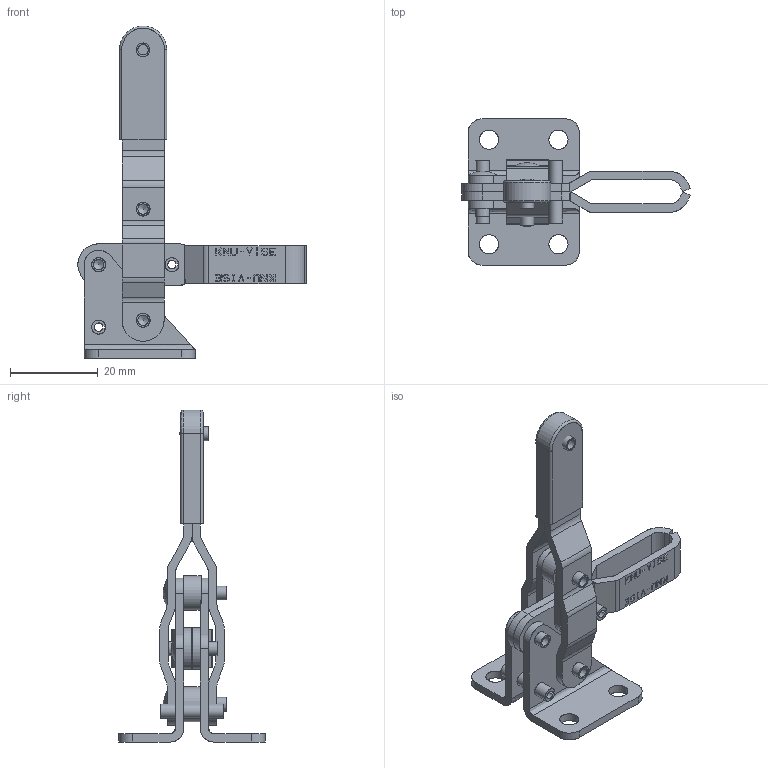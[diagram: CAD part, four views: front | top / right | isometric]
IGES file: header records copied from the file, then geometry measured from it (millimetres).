
Global section: file name: C:\T&M Tech\Carbide Tech\Work\120 series\v-120\v-120.igs; native system: Unigraphics Version X V2.0; preprocessor: Unigraphics NX IGES V2.0; date: 20041216.014840; units: inch
Bounding box: 52.18 x 33.43 x 75.86 mm (x, y, z)
Surface area: 12818.2 mm2 (no closed solid volume)
Topology: 0 solids, 0 shells, 639 faces, 5548 edges, 5502 vertices
Faces by surface type: extrusion 483, revolution 124, offset 32
